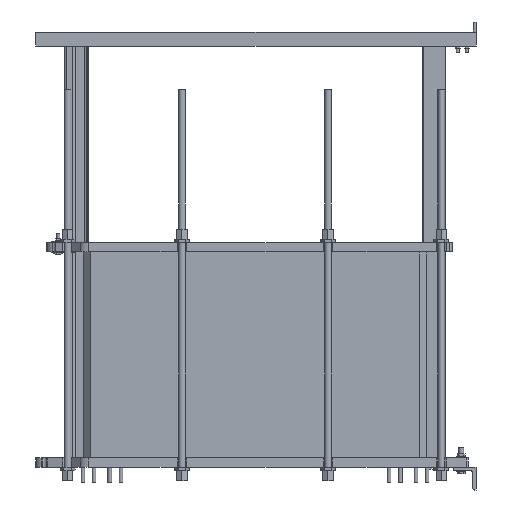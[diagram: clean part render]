
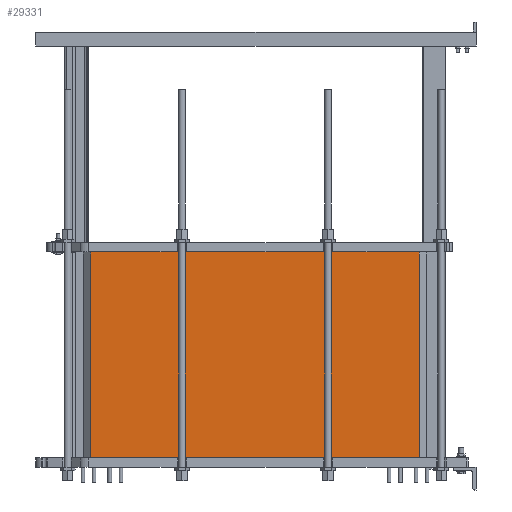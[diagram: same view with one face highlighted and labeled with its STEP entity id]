
A CAD part, left-side view. The second image highlights one B-rep face of the part: STEP entity #29331.
In plain terms, the highlighted planar face has unit normal (-1, 0, 0).
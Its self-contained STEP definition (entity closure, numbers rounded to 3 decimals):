
#21680=CARTESIAN_POINT('',(-187.5,705.0,940.0));
#21681=VERTEX_POINT('',#21680);
#21688=CARTESIAN_POINT('',(-187.5,-731.0,940.0));
#21689=VERTEX_POINT('',#21688);
#21690=CARTESIAN_POINT('',(-187.5,-731.0,940.0));
#21691=DIRECTION('',(0.0,1.0,0.0));
#21692=VECTOR('',#21691,1436.0);
#21693=LINE('',#21690,#21692);
#21694=EDGE_CURVE('',#21689,#21681,#21693,.T.);
#28280=CARTESIAN_POINT('',(-187.5,-731.0,40.0));
#28281=VERTEX_POINT('',#28280);
#28288=CARTESIAN_POINT('',(-187.5,705.0,40.0));
#28289=VERTEX_POINT('',#28288);
#28290=CARTESIAN_POINT('',(-187.5,-731.0,40.0));
#28291=DIRECTION('',(0.0,1.0,0.0));
#28292=VECTOR('',#28291,1436.0);
#28293=LINE('',#28290,#28292);
#28294=EDGE_CURVE('',#28281,#28289,#28293,.T.);
#29306=CARTESIAN_POINT('',(-187.5,705.0,40.0));
#29307=DIRECTION('',(0.0,0.0,1.0));
#29308=VECTOR('',#29307,900.0);
#29309=LINE('',#29306,#29308);
#29310=EDGE_CURVE('',#28289,#21681,#29309,.T.);
#29315=CARTESIAN_POINT('',(-187.5,-731.0,40.0));
#29316=DIRECTION('',(-1.0,0.0,0.0));
#29317=DIRECTION('',(0.0,0.0,1.0));
#29318=AXIS2_PLACEMENT_3D('',#29315,#29316,#29317);
#29319=PLANE('',#29318);
#29320=ORIENTED_EDGE('',*,*,#21694,.T.);
#29321=ORIENTED_EDGE('',*,*,#29310,.F.);
#29322=ORIENTED_EDGE('',*,*,#28294,.F.);
#29323=CARTESIAN_POINT('',(-187.5,-731.0,40.0));
#29324=DIRECTION('',(0.0,0.0,1.0));
#29325=VECTOR('',#29324,900.0);
#29326=LINE('',#29323,#29325);
#29327=EDGE_CURVE('',#28281,#21689,#29326,.T.);
#29328=ORIENTED_EDGE('',*,*,#29327,.T.);
#29329=EDGE_LOOP('',(#29320,#29321,#29322,#29328));
#29330=FACE_OUTER_BOUND('',#29329,.T.);
#29331=ADVANCED_FACE('',(#29330),#29319,.T.);
